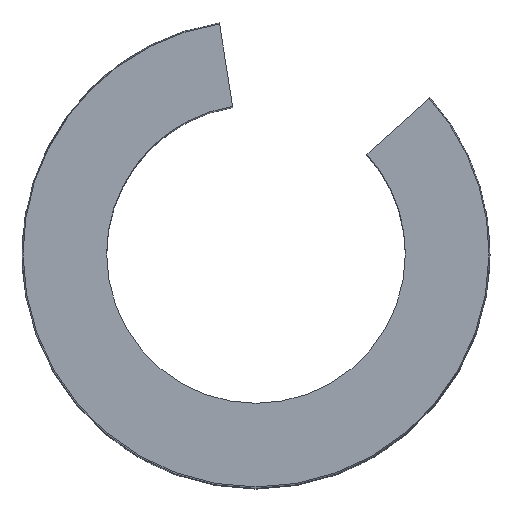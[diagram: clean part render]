
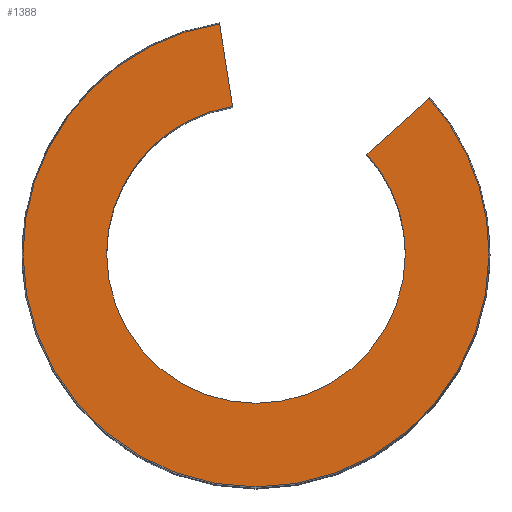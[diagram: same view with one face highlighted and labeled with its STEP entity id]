
A CAD part, top view. The second image highlights one B-rep face of the part: STEP entity #1388.
In plain terms, the highlighted planar face has unit normal (0, 0, 1).
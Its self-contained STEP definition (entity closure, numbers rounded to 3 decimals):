
#51=CARTESIAN_POINT('',(12.201,1.811,68.0));
#52=VERTEX_POINT('',#51);
#59=CARTESIAN_POINT('',(8.348,11.848,68.0));
#60=VERTEX_POINT('',#59);
#61=CARTESIAN_POINT('',(-2.799,1.811,68.0));
#62=DIRECTION('',(0.0,0.0,-1.0));
#63=DIRECTION('',(-1.0,0.0,0.0));
#64=AXIS2_PLACEMENT_3D('',#61,#62,#63);
#65=CIRCLE('',#64,15.0);
#66=EDGE_CURVE('',#60,#52,#65,.T.);
#91=CARTESIAN_POINT('',(-17.799,1.811,68.0));
#92=VERTEX_POINT('',#91);
#101=CARTESIAN_POINT('',(-2.799,1.811,68.0));
#102=DIRECTION('',(0.0,0.0,-1.0));
#103=DIRECTION('',(-1.0,0.0,0.0));
#104=AXIS2_PLACEMENT_3D('',#101,#102,#103);
#105=CIRCLE('',#104,15.0);
#106=EDGE_CURVE('',#52,#92,#105,.T.);
#514=CARTESIAN_POINT('',(20.601,1.811,68.0));
#515=VERTEX_POINT('',#514);
#523=CARTESIAN_POINT('',(14.59,17.469,68.0));
#524=VERTEX_POINT('',#523);
#531=CARTESIAN_POINT('',(-2.799,1.811,68.0));
#532=DIRECTION('',(0.0,0.0,-1.0));
#533=DIRECTION('',(-1.0,0.0,0.0));
#534=AXIS2_PLACEMENT_3D('',#531,#532,#533);
#535=CIRCLE('',#534,23.4);
#536=EDGE_CURVE('',#524,#515,#535,.T.);
#546=CARTESIAN_POINT('',(-26.199,1.811,68.0));
#547=VERTEX_POINT('',#546);
#554=CARTESIAN_POINT('',(-6.46,24.923,68.0));
#555=VERTEX_POINT('',#554);
#556=CARTESIAN_POINT('',(-2.799,1.811,68.0));
#557=DIRECTION('',(0.0,0.0,-1.0));
#558=DIRECTION('',(-1.0,0.0,0.0));
#559=AXIS2_PLACEMENT_3D('',#556,#557,#558);
#560=CIRCLE('',#559,23.4);
#561=EDGE_CURVE('',#547,#555,#560,.T.);
#691=CARTESIAN_POINT('',(-5.146,16.627,68.0));
#692=VERTEX_POINT('',#691);
#693=CARTESIAN_POINT('',(-5.146,16.627,68.0));
#694=DIRECTION('',(-0.156,0.988,0.0));
#695=VECTOR('',#694,8.4);
#696=LINE('',#693,#695);
#697=EDGE_CURVE('',#692,#555,#696,.T.);
#821=CARTESIAN_POINT('',(14.59,17.469,68.0));
#822=DIRECTION('',(-0.743,-0.669,0.0));
#823=VECTOR('',#822,8.4);
#824=LINE('',#821,#823);
#825=EDGE_CURVE('',#524,#60,#824,.T.);
#871=CARTESIAN_POINT('',(-2.799,1.811,68.0));
#872=DIRECTION('',(0.0,0.0,-1.0));
#873=DIRECTION('',(-1.0,0.0,0.0));
#874=AXIS2_PLACEMENT_3D('',#871,#872,#873);
#875=CIRCLE('',#874,23.4);
#876=EDGE_CURVE('',#515,#547,#875,.T.);
#1367=CARTESIAN_POINT('',(-2.799,1.811,68.0));
#1368=DIRECTION('',(0.0,0.0,-1.0));
#1369=DIRECTION('',(-1.0,0.0,0.0));
#1370=AXIS2_PLACEMENT_3D('',#1367,#1368,#1369);
#1371=PLANE('',#1370);
#1372=ORIENTED_EDGE('',*,*,#697,.T.);
#1373=ORIENTED_EDGE('',*,*,#561,.F.);
#1374=ORIENTED_EDGE('',*,*,#876,.F.);
#1375=ORIENTED_EDGE('',*,*,#536,.F.);
#1376=ORIENTED_EDGE('',*,*,#825,.T.);
#1377=ORIENTED_EDGE('',*,*,#66,.T.);
#1378=ORIENTED_EDGE('',*,*,#106,.T.);
#1379=CARTESIAN_POINT('',(-2.799,1.811,68.0));
#1380=DIRECTION('',(0.0,0.0,-1.0));
#1381=DIRECTION('',(-1.0,0.0,0.0));
#1382=AXIS2_PLACEMENT_3D('',#1379,#1380,#1381);
#1383=CIRCLE('',#1382,15.0);
#1384=EDGE_CURVE('',#92,#692,#1383,.T.);
#1385=ORIENTED_EDGE('',*,*,#1384,.T.);
#1386=EDGE_LOOP('',(#1372,#1373,#1374,#1375,#1376,#1377,#1378,#1385));
#1387=FACE_OUTER_BOUND('',#1386,.T.);
#1388=ADVANCED_FACE('',(#1387),#1371,.F.);
